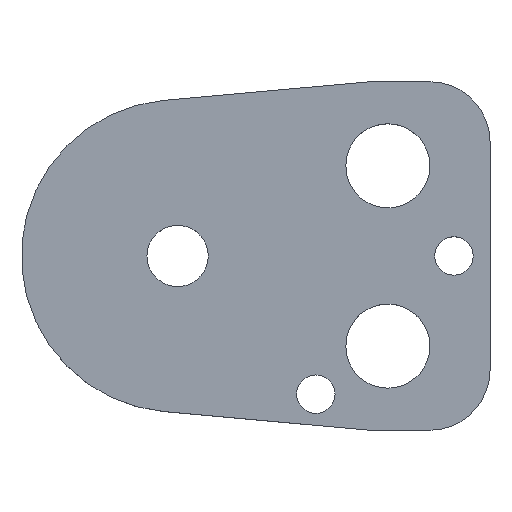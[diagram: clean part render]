
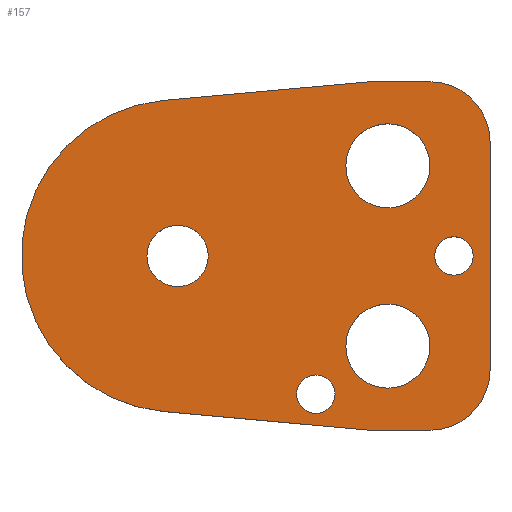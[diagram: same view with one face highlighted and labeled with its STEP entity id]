
A CAD part, top view. The second image highlights one B-rep face of the part: STEP entity #157.
In plain terms, the highlighted planar face has unit normal (0, 0, 1).
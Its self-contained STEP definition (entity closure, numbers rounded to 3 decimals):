
#103=FACE_BOUND('',#207,.T.);
#104=FACE_BOUND('',#208,.T.);
#105=FACE_BOUND('',#209,.T.);
#106=FACE_BOUND('',#210,.T.);
#107=FACE_BOUND('',#211,.T.);
#108=FACE_BOUND('',#212,.T.);
#122=CIRCLE('',#480,10.);
#124=CIRCLE('',#484,10.);
#127=CIRCLE('',#490,26.);
#138=CIRCLE('',#503,3.2);
#139=CIRCLE('',#504,3.2);
#140=CIRCLE('',#505,7.);
#141=CIRCLE('',#506,7.);
#142=CIRCLE('',#507,7.);
#143=CIRCLE('',#508,7.);
#144=CIRCLE('',#509,3.2);
#145=CIRCLE('',#510,3.2);
#146=CIRCLE('',#511,5.1);
#147=CIRCLE('',#512,5.1);
#157=ADVANCED_FACE('',(#103,#104,#105,#106,#107,#108),#174,.T.);
#174=PLANE('',#513);
#207=EDGE_LOOP('',(#273,#274,#275,#276,#277,#278,#279,#280));
#208=EDGE_LOOP('',(#281,#282));
#209=EDGE_LOOP('',(#283,#284));
#210=EDGE_LOOP('',(#285,#286));
#211=EDGE_LOOP('',(#287,#288));
#212=EDGE_LOOP('',(#289,#290));
#273=ORIENTED_EDGE('',*,*,#368,.T.);
#274=ORIENTED_EDGE('',*,*,#372,.T.);
#275=ORIENTED_EDGE('',*,*,#375,.T.);
#276=ORIENTED_EDGE('',*,*,#378,.T.);
#277=ORIENTED_EDGE('',*,*,#381,.T.);
#278=ORIENTED_EDGE('',*,*,#384,.T.);
#279=ORIENTED_EDGE('',*,*,#387,.T.);
#280=ORIENTED_EDGE('',*,*,#390,.T.);
#281=ORIENTED_EDGE('',*,*,#401,.T.);
#282=ORIENTED_EDGE('',*,*,#402,.T.);
#283=ORIENTED_EDGE('',*,*,#403,.T.);
#284=ORIENTED_EDGE('',*,*,#404,.T.);
#285=ORIENTED_EDGE('',*,*,#405,.T.);
#286=ORIENTED_EDGE('',*,*,#406,.T.);
#287=ORIENTED_EDGE('',*,*,#407,.T.);
#288=ORIENTED_EDGE('',*,*,#408,.T.);
#289=ORIENTED_EDGE('',*,*,#409,.T.);
#290=ORIENTED_EDGE('',*,*,#410,.T.);
#332=VERTEX_POINT('',#649);
#333=VERTEX_POINT('',#651);
#336=VERTEX_POINT('',#658);
#338=VERTEX_POINT('',#664);
#340=VERTEX_POINT('',#670);
#342=VERTEX_POINT('',#676);
#344=VERTEX_POINT('',#682);
#346=VERTEX_POINT('',#688);
#357=VERTEX_POINT('',#717);
#358=VERTEX_POINT('',#718);
#359=VERTEX_POINT('',#721);
#360=VERTEX_POINT('',#722);
#361=VERTEX_POINT('',#725);
#362=VERTEX_POINT('',#726);
#363=VERTEX_POINT('',#729);
#364=VERTEX_POINT('',#730);
#365=VERTEX_POINT('',#733);
#366=VERTEX_POINT('',#734);
#368=EDGE_CURVE('',#333,#332,#422,.T.);
#372=EDGE_CURVE('',#332,#336,#426,.T.);
#375=EDGE_CURVE('',#336,#338,#122,.T.);
#378=EDGE_CURVE('',#338,#340,#430,.T.);
#381=EDGE_CURVE('',#340,#342,#124,.T.);
#384=EDGE_CURVE('',#342,#344,#434,.T.);
#387=EDGE_CURVE('',#344,#346,#437,.T.);
#390=EDGE_CURVE('',#346,#333,#127,.T.);
#401=EDGE_CURVE('',#357,#358,#138,.T.);
#402=EDGE_CURVE('',#358,#357,#139,.T.);
#403=EDGE_CURVE('',#359,#360,#140,.T.);
#404=EDGE_CURVE('',#360,#359,#141,.T.);
#405=EDGE_CURVE('',#361,#362,#142,.T.);
#406=EDGE_CURVE('',#362,#361,#143,.T.);
#407=EDGE_CURVE('',#363,#364,#144,.T.);
#408=EDGE_CURVE('',#364,#363,#145,.T.);
#409=EDGE_CURVE('',#365,#366,#146,.T.);
#410=EDGE_CURVE('',#366,#365,#147,.T.);
#422=LINE('',#650,#450);
#426=LINE('',#659,#454);
#430=LINE('',#671,#458);
#434=LINE('',#683,#462);
#437=LINE('',#689,#465);
#450=VECTOR('',#527,1.);
#454=VECTOR('',#533,1.);
#458=VECTOR('',#545,1.);
#462=VECTOR('',#557,1.);
#465=VECTOR('',#562,1.);
#480=AXIS2_PLACEMENT_3D('',#665,#538,#539);
#484=AXIS2_PLACEMENT_3D('',#677,#550,#551);
#490=AXIS2_PLACEMENT_3D('',#693,#568,#569);
#503=AXIS2_PLACEMENT_3D('',#716,#594,#595);
#504=AXIS2_PLACEMENT_3D('',#719,#596,#597);
#505=AXIS2_PLACEMENT_3D('',#720,#598,#599);
#506=AXIS2_PLACEMENT_3D('',#723,#600,#601);
#507=AXIS2_PLACEMENT_3D('',#724,#602,#603);
#508=AXIS2_PLACEMENT_3D('',#727,#604,#605);
#509=AXIS2_PLACEMENT_3D('',#728,#606,#607);
#510=AXIS2_PLACEMENT_3D('',#731,#608,#609);
#511=AXIS2_PLACEMENT_3D('',#732,#610,#611);
#512=AXIS2_PLACEMENT_3D('',#735,#612,#613);
#513=AXIS2_PLACEMENT_3D('',#736,#614,#615);
#527=DIRECTION('',(0.996,-0.09,0.));
#533=DIRECTION('',(1.,0.,0.));
#538=DIRECTION('',(0.,0.,1.));
#539=DIRECTION('',(-0.707,0.707,0.));
#545=DIRECTION('',(0.,1.,0.));
#550=DIRECTION('',(0.,0.,1.));
#551=DIRECTION('',(-0.707,-0.707,0.));
#557=DIRECTION('',(-1.,0.,0.));
#562=DIRECTION('',(-0.996,-0.09,0.));
#568=DIRECTION('',(0.,0.,1.));
#569=DIRECTION('',(1.,0.,0.));
#594=DIRECTION('',(0.,0.,-1.));
#595=DIRECTION('',(-1.,0.,0.));
#596=DIRECTION('',(0.,0.,-1.));
#597=DIRECTION('',(1.,0.,0.));
#598=DIRECTION('',(0.,0.,-1.));
#599=DIRECTION('',(-1.,0.,0.));
#600=DIRECTION('',(0.,0.,-1.));
#601=DIRECTION('',(1.,0.,0.));
#602=DIRECTION('',(0.,0.,-1.));
#603=DIRECTION('',(-1.,0.,0.));
#604=DIRECTION('',(0.,0.,-1.));
#605=DIRECTION('',(1.,0.,0.));
#606=DIRECTION('',(0.,0.,-1.));
#607=DIRECTION('',(-1.,0.,0.));
#608=DIRECTION('',(0.,0.,-1.));
#609=DIRECTION('',(1.,0.,0.));
#610=DIRECTION('',(0.,0.,-1.));
#611=DIRECTION('',(-1.,0.,0.));
#612=DIRECTION('',(0.,0.,-1.));
#613=DIRECTION('',(1.,0.,0.));
#614=DIRECTION('',(0.,0.,1.));
#615=DIRECTION('',(0.996,-0.09,0.));
#649=CARTESIAN_POINT('',(32.,-29.,6.));
#650=CARTESIAN_POINT('',(32.,-29.,6.));
#651=CARTESIAN_POINT('',(-2.342,-25.894,6.));
#658=CARTESIAN_POINT('',(42.,-29.,6.));
#659=CARTESIAN_POINT('',(32.,-29.,6.));
#664=CARTESIAN_POINT('',(52.,-19.,6.));
#665=CARTESIAN_POINT('',(42.,-19.,6.));
#670=CARTESIAN_POINT('',(52.,19.,6.));
#671=CARTESIAN_POINT('',(52.,19.,6.));
#676=CARTESIAN_POINT('',(42.,29.,6.));
#677=CARTESIAN_POINT('',(42.,19.,6.));
#682=CARTESIAN_POINT('',(32.,29.,6.));
#683=CARTESIAN_POINT('',(32.,29.,6.));
#688=CARTESIAN_POINT('',(-2.342,25.894,6.));
#689=CARTESIAN_POINT('',(32.,29.,6.));
#693=CARTESIAN_POINT('',(0.,0.,6.));
#716=CARTESIAN_POINT('',(46.,0.,6.));
#717=CARTESIAN_POINT('',(46.,3.2,6.));
#718=CARTESIAN_POINT('',(46.,-3.2,6.));
#719=CARTESIAN_POINT('',(46.,0.,6.));
#720=CARTESIAN_POINT('',(35.,15.,6.));
#721=CARTESIAN_POINT('',(35.,22.,6.));
#722=CARTESIAN_POINT('',(35.,8.,6.));
#723=CARTESIAN_POINT('',(35.,15.,6.));
#724=CARTESIAN_POINT('',(35.,-15.,6.));
#725=CARTESIAN_POINT('',(35.,-8.,6.));
#726=CARTESIAN_POINT('',(35.,-22.,6.));
#727=CARTESIAN_POINT('',(35.,-15.,6.));
#728=CARTESIAN_POINT('',(23.,-23.,6.));
#729=CARTESIAN_POINT('',(23.,-19.8,6.));
#730=CARTESIAN_POINT('',(23.,-26.2,6.));
#731=CARTESIAN_POINT('',(23.,-23.,6.));
#732=CARTESIAN_POINT('',(0.,0.,6.));
#733=CARTESIAN_POINT('',(0.,5.1,6.));
#734=CARTESIAN_POINT('',(0.,-5.1,6.));
#735=CARTESIAN_POINT('',(0.,0.,6.));
#736=CARTESIAN_POINT('',(-2.342,-25.894,6.));
